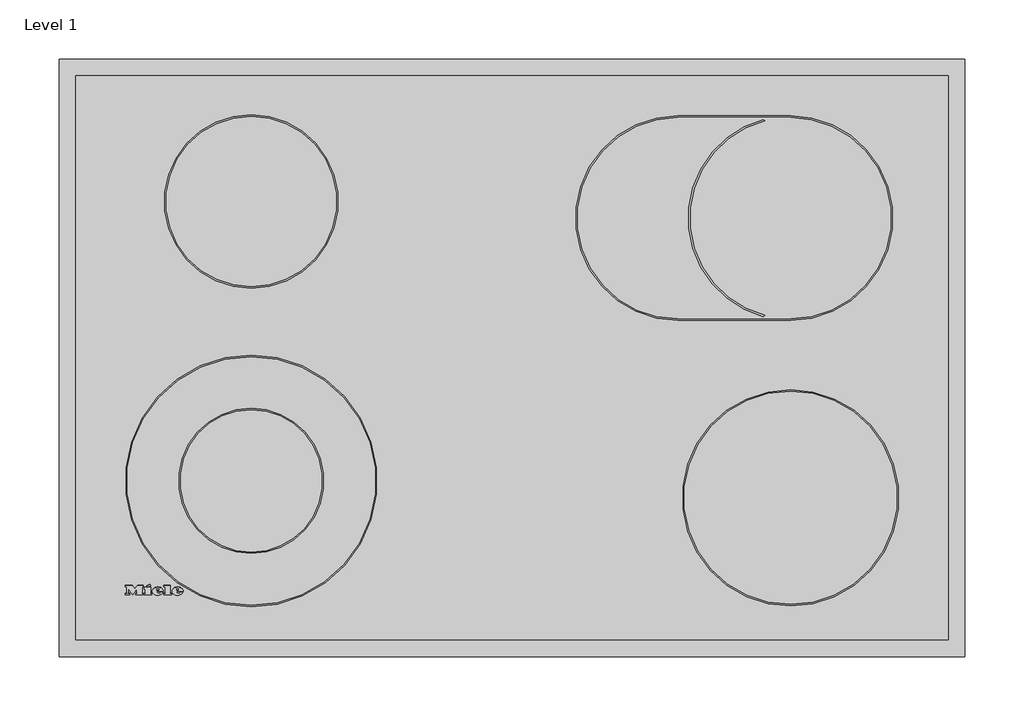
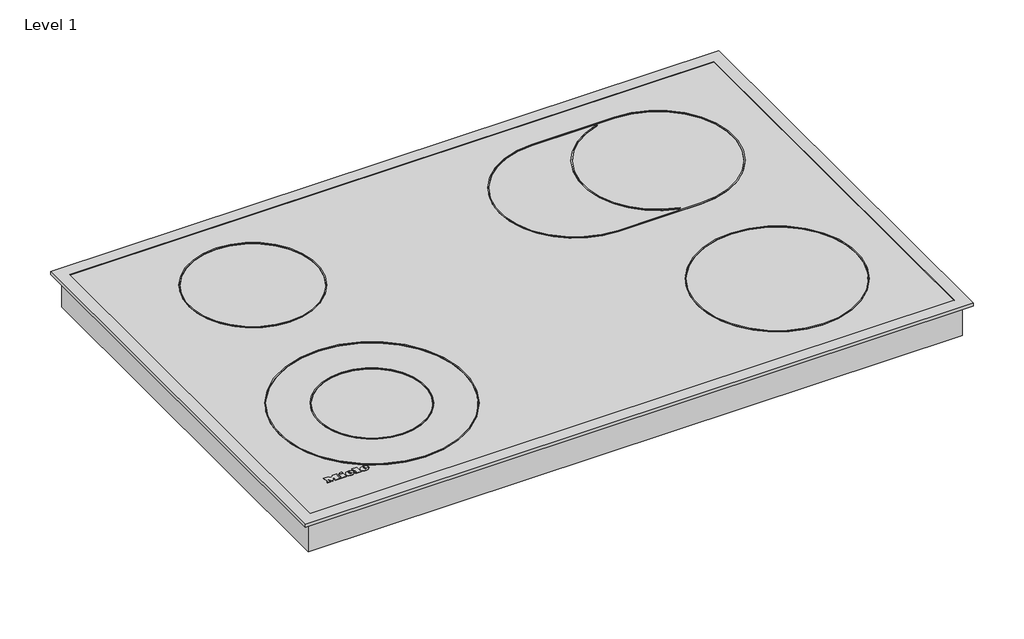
# One storey: 1 proxy.
"""IFC4 building model written with IfcOpenShell, lengths in millimetres."""

from ifc_helpers import new_model, si_unit, origin, place, context, project, spatial, transform, mapped, element, save
from components import specialty_equipment_aff92b17

model = new_model("IFC4")

# Units and contexts
model_context = context("Model", 3, world=origin())
ifc_project = project(units=[si_unit("LENGTHUNIT", "METRE", prefix="MILLI")], contexts=[model_context])

# Site, building, storey
site = spatial("IfcSite", under=ifc_project)
building = spatial("IfcBuilding", under=site)
storey = spatial("IfcBuildingStorey", under=building, Name="Level 1", Elevation=0.0)

# Proxy
placement = place(None, origin())
specialty_equipment_shape = specialty_equipment_aff92b17(model_context)
element("IfcBuildingElementProxy", 1, Name="12060530_F_KM6522FR : 26652210_F_12060530_KM6522FR", ObjectType="12060530_F_KM6522FR : 26652210_F_12060530_KM6522FR", at=placement, inside=storey, context=model_context, shape_type="MappedRepresentation", body=[
    mapped(specialty_equipment_shape, transform((0.0, 0.0, 0.0), x_axis=(1.0, 0.0, 0.0), y_axis=(0.0, 1.0, 0.0), z_axis=(0.0, 0.0, 1.0))),
])

save(model, "model.ifc")
